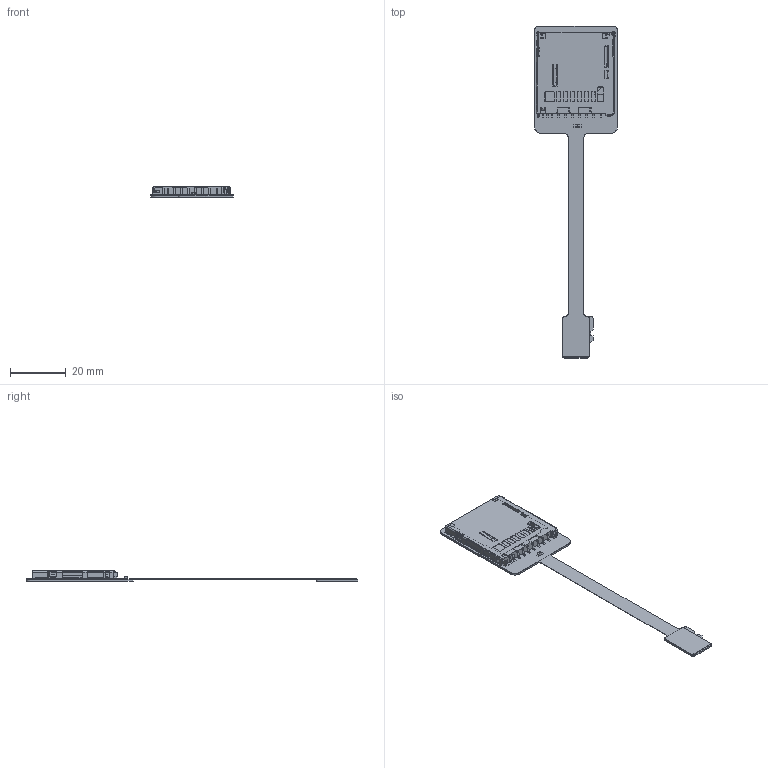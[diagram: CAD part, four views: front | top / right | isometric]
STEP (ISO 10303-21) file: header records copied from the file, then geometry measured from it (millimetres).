
FILE_DESCRIPTION(('Open CASCADE Model'),'2;1');
FILE_NAME('Open CASCADE Shape Model','2022-06-04T11:10:48',('Author'),( 'Open CASCADE'),'Open CASCADE STEP processor 6.8','Open CASCADE 6.8' ,'Unknown');
FILE_SCHEMA(('AUTOMOTIVE_DESIGN { 1 0 10303 214 1 1 1 1 }'));
Length unit declared in the file: millimetre
Products named in the file (14): PCB; Board; Open CASCADE STEP translator 6.8 4.1.1; Designator8; DM1B-DSF-PEJ_20211025（2）; C1; 电容贴片Capacitor_0603_SMD; User_Library-cap0603_cap0603_body_??; User_Library-cap0603_pad_0603_??; Free-Models; SD_conn_PAD_RGB32896; uSD_PAD_RGB32896
Assembly tree (14 placements, depth 5):
  PCB
    Board
      Open CASCADE STEP translator 6.8 4.1.1
    Designator8
      DM1B-DSF-PEJ_20211025（2）  x2
      DM1B-DSF-PEJ_20211025（2）
    C1
      电容贴片Capacitor_0603_SMD
        电容贴片Capacitor_0603_SMD
          User_Library-cap0603_cap0603_body_??
          User_Library-cap0603_pad_0603_??
    Free-Models
      SD_conn_PAD_RGB32896
      uSD_PAD_RGB32896
Bounding box: 29.72 x 119.21 x 3.65 mm (x, y, z)
Volume: 2960.2 mm3; surface area: 14474.2 mm2
Topology: 9 solids, 9 shells, 2735 faces, 7901 edges, 5140 vertices
Faces by surface type: plane 1992, cylinder 726, bspline 9, sphere 8
Entity records: 78680 total; most frequent: CARTESIAN_POINT 11819, ORIENTED_EDGE 10812, DIRECTION 10188, EDGE_CURVE 5406, LINE 4346, VECTOR 4346, VERTEX_POINT 3520, AXIS2_PLACEMENT_3D 2921
